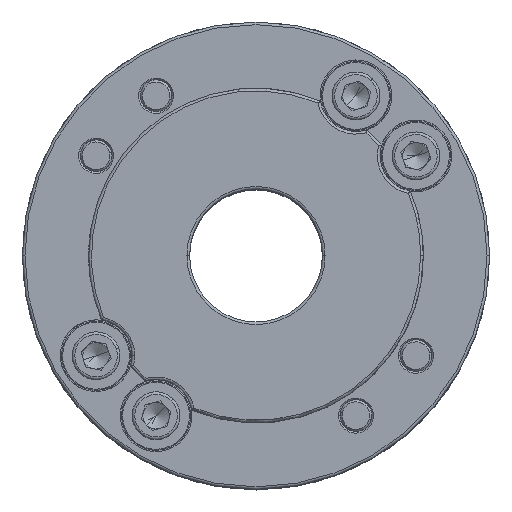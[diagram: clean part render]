
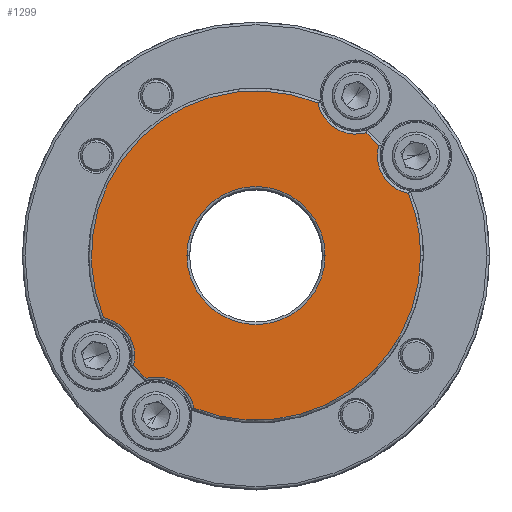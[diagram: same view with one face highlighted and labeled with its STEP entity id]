
A CAD part, top view. The second image highlights one B-rep face of the part: STEP entity #1299.
In plain terms, the highlighted planar face has unit normal (0, 0, 1).
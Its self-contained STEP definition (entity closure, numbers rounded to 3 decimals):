
#1209 = ORIENTED_EDGE ( 'NONE', *, *, #1210, .T. ) ;
#1210 = EDGE_CURVE ( 'NONE', #1522, #1380, #5039, .T. ) ;
#1219 = ORIENTED_EDGE ( 'NONE', *, *, #2748, .T. ) ;
#1220 = EDGE_CURVE ( 'NONE', #1369, #1244, #4888, .T. ) ;
#1224 = ORIENTED_EDGE ( 'NONE', *, *, #2635, .T. ) ;
#1225 = ORIENTED_EDGE ( 'NONE', *, *, #1226, .T. ) ;
#1226 = EDGE_CURVE ( 'NONE', #2339, #1268, #5087, .T. ) ;
#1227 = EDGE_CURVE ( 'NONE', #1380, #2592, #4936, .T. ) ;
#1228 = ORIENTED_EDGE ( 'NONE', *, *, #2338, .T. ) ;
#1229 = EDGE_CURVE ( 'NONE', #2518, #2517, #4931, .T. ) ;
#1230 = ORIENTED_EDGE ( 'NONE', *, *, #1521, .T. ) ;
#1235 = ORIENTED_EDGE ( 'NONE', *, *, #1236, .T. ) ;
#1236 = EDGE_CURVE ( 'NONE', #1244, #1312, #5006, .T. ) ;
#1237 = ORIENTED_EDGE ( 'NONE', *, *, #1227, .T. ) ;
#1238 = ORIENTED_EDGE ( 'NONE', *, *, #1229, .T. ) ;
#1244 = VERTEX_POINT ( 'NONE', #4950 ) ;
#1262 = EDGE_LOOP ( 'NONE', ( #1238, #1224 ) ) ;
#1268 = VERTEX_POINT ( 'NONE', #5107 ) ;
#1269 = ORIENTED_EDGE ( 'NONE', *, *, #1220, .T. ) ;
#1275 = EDGE_LOOP ( 'NONE', ( #1269, #1235, #1230, #1209, #1237, #1228, #1225, #1350, #1219, #1352 ) ) ;
#1299 = ADVANCED_FACE ( 'NONE', ( #5120, #5119 ), #5118, .T. ) ;
#1312 = VERTEX_POINT ( 'NONE', #5220 ) ;
#1350 = ORIENTED_EDGE ( 'NONE', *, *, #1351, .T. ) ;
#1351 = EDGE_CURVE ( 'NONE', #1268, #2340, #5303, .T. ) ;
#1352 = ORIENTED_EDGE ( 'NONE', *, *, #1494, .T. ) ;
#1369 = VERTEX_POINT ( 'NONE', #5193 ) ;
#1380 = VERTEX_POINT ( 'NONE', #5400 ) ;
#1494 = EDGE_CURVE ( 'NONE', #2334, #1369, #5565, .T. ) ;
#1521 = EDGE_CURVE ( 'NONE', #1312, #1522, #5705, .T. ) ;
#1522 = VERTEX_POINT ( 'NONE', #5701 ) ;
#2334 = VERTEX_POINT ( 'NONE', #7000 ) ;
#2338 = EDGE_CURVE ( 'NONE', #2592, #2339, #6970, .T. ) ;
#2339 = VERTEX_POINT ( 'NONE', #7094 ) ;
#2340 = VERTEX_POINT ( 'NONE', #7093 ) ;
#2517 = VERTEX_POINT ( 'NONE', #7169 ) ;
#2518 = VERTEX_POINT ( 'NONE', #7168 ) ;
#2592 = VERTEX_POINT ( 'NONE', #7317 ) ;
#2635 = EDGE_CURVE ( 'NONE', #2517, #2518, #7292, .T. ) ;
#2748 = EDGE_CURVE ( 'NONE', #2340, #2334, #7422, .T. ) ;
#4884 = DIRECTION ( 'NONE',  ( 1., 0., 0. ) ) ;
#4885 = DIRECTION ( 'NONE',  ( 0., 0., -1. ) ) ;
#4886 = CARTESIAN_POINT ( 'NONE',  ( 30.106, 18.812, 30. ) ) ;
#4887 = AXIS2_PLACEMENT_3D ( 'NONE', #4886, #4885, #4884 ) ;
#4888 = CIRCLE ( 'NONE', #4887, 7.25 ) ;
#4927 = DIRECTION ( 'NONE',  ( 1., 0., 0. ) ) ;
#4928 = DIRECTION ( 'NONE',  ( 0., 0., -1. ) ) ;
#4929 = CARTESIAN_POINT ( 'NONE',  ( 0., 0., 30. ) ) ;
#4930 = AXIS2_PLACEMENT_3D ( 'NONE', #4929, #4928, #4927 ) ;
#4931 = CIRCLE ( 'NONE', #4930, 13. ) ;
#4932 = DIRECTION ( 'NONE',  ( 1., 0., 0. ) ) ;
#4933 = DIRECTION ( 'NONE',  ( 0., 0., -1. ) ) ;
#4934 = CARTESIAN_POINT ( 'NONE',  ( -30.106, -18.812, 30. ) ) ;
#4935 = AXIS2_PLACEMENT_3D ( 'NONE', #4934, #4933, #4932 ) ;
#4936 = CIRCLE ( 'NONE', #4935, 7.25 ) ;
#4937 = DIRECTION ( 'NONE',  ( 1., 0., 0. ) ) ;
#4950 = CARTESIAN_POINT ( 'NONE',  ( 23.099, 20.675, 30. ) ) ;
#5002 = DIRECTION ( 'NONE',  ( 1., 0., 0. ) ) ;
#5003 = DIRECTION ( 'NONE',  ( 0., 0., 1. ) ) ;
#5004 = CARTESIAN_POINT ( 'NONE',  ( 0., 0., 30. ) ) ;
#5005 = AXIS2_PLACEMENT_3D ( 'NONE', #5004, #5003, #5002 ) ;
#5006 = CIRCLE ( 'NONE', #5005, 31. ) ;
#5035 = DIRECTION ( 'NONE',  ( 1., 0., 0. ) ) ;
#5036 = DIRECTION ( 'NONE',  ( 0., 0., 1. ) ) ;
#5037 = CARTESIAN_POINT ( 'NONE',  ( 0., 0., 30. ) ) ;
#5038 = AXIS2_PLACEMENT_3D ( 'NONE', #5037, #5036, #5035 ) ;
#5039 = CIRCLE ( 'NONE', #5038, 31. ) ;
#5080 = DIRECTION ( 'NONE',  ( 0., 0., 1. ) ) ;
#5081 = CARTESIAN_POINT ( 'NONE',  ( 0., 0., 30. ) ) ;
#5082 = AXIS2_PLACEMENT_3D ( 'NONE', #5081, #5080, #4937 ) ;
#5087 = CIRCLE ( 'NONE', #5082, 31. ) ;
#5107 = CARTESIAN_POINT ( 'NONE',  ( -20.675, -23.099, 30. ) ) ;
#5114 = DIRECTION ( 'NONE',  ( 1., 0., 0. ) ) ;
#5115 = DIRECTION ( 'NONE',  ( 0., 0., 1. ) ) ;
#5116 = CARTESIAN_POINT ( 'NONE',  ( 0., -96.941, 30. ) ) ;
#5117 = AXIS2_PLACEMENT_3D ( 'NONE', #5116, #5115, #5114 ) ;
#5118 = PLANE ( 'NONE',  #5117 ) ;
#5119 = FACE_OUTER_BOUND ( 'NONE', #1275, .T. ) ;
#5120 = FACE_BOUND ( 'NONE', #1262, .T. ) ;
#5193 = CARTESIAN_POINT ( 'NONE',  ( 28.708, 11.698, 30. ) ) ;
#5220 = CARTESIAN_POINT ( 'NONE',  ( 20.675, 23.099, 30. ) ) ;
#5299 = DIRECTION ( 'NONE',  ( 1., 0., 0. ) ) ;
#5300 = DIRECTION ( 'NONE',  ( 0., 0., -1. ) ) ;
#5301 = CARTESIAN_POINT ( 'NONE',  ( -18.812, -30.106, 30. ) ) ;
#5302 = AXIS2_PLACEMENT_3D ( 'NONE', #5301, #5300, #5299 ) ;
#5303 = CIRCLE ( 'NONE', #5302, 7.25 ) ;
#5400 = CARTESIAN_POINT ( 'NONE',  ( -28.708, -11.698, 30. ) ) ;
#5564 = AXIS2_PLACEMENT_3D ( 'NONE', #5610, #5609, #5608 ) ;
#5565 = CIRCLE ( 'NONE', #5564, 31. ) ;
#5608 = DIRECTION ( 'NONE',  ( 1., 0., 0. ) ) ;
#5609 = DIRECTION ( 'NONE',  ( 0., 0., 1. ) ) ;
#5610 = CARTESIAN_POINT ( 'NONE',  ( 0., 0., 30. ) ) ;
#5688 = CARTESIAN_POINT ( 'NONE',  ( 18.812, 30.106, 30. ) ) ;
#5701 = CARTESIAN_POINT ( 'NONE',  ( 11.698, 28.708, 30. ) ) ;
#5702 = DIRECTION ( 'NONE',  ( 1., 0., 0. ) ) ;
#5703 = DIRECTION ( 'NONE',  ( 0., 0., -1. ) ) ;
#5704 = AXIS2_PLACEMENT_3D ( 'NONE', #5688, #5703, #5702 ) ;
#5705 = CIRCLE ( 'NONE', #5704, 7.25 ) ;
#6970 = CIRCLE ( 'NONE', #7098, 7.25 ) ;
#7000 = CARTESIAN_POINT ( 'NONE',  ( 31., 0., 30. ) ) ;
#7093 = CARTESIAN_POINT ( 'NONE',  ( -11.698, -28.708, 30. ) ) ;
#7094 = CARTESIAN_POINT ( 'NONE',  ( -23.099, -20.675, 30. ) ) ;
#7095 = DIRECTION ( 'NONE',  ( 1., 0., 0. ) ) ;
#7096 = DIRECTION ( 'NONE',  ( 0., 0., -1. ) ) ;
#7097 = CARTESIAN_POINT ( 'NONE',  ( -30.106, -18.812, 30. ) ) ;
#7098 = AXIS2_PLACEMENT_3D ( 'NONE', #7097, #7096, #7095 ) ;
#7168 = CARTESIAN_POINT ( 'NONE',  ( 13., 0., 30. ) ) ;
#7169 = CARTESIAN_POINT ( 'NONE',  ( -13., 0., 30. ) ) ;
#7288 = DIRECTION ( 'NONE',  ( 1., 0., 0. ) ) ;
#7289 = DIRECTION ( 'NONE',  ( 0., 0., -1. ) ) ;
#7290 = CARTESIAN_POINT ( 'NONE',  ( 0., 0., 30. ) ) ;
#7291 = AXIS2_PLACEMENT_3D ( 'NONE', #7290, #7289, #7288 ) ;
#7292 = CIRCLE ( 'NONE', #7291, 13. ) ;
#7317 = CARTESIAN_POINT ( 'NONE',  ( -22.856, -18.812, 30. ) ) ;
#7405 = DIRECTION ( 'NONE',  ( 1., 0., 0. ) ) ;
#7406 = DIRECTION ( 'NONE',  ( 0., 0., 1. ) ) ;
#7407 = CARTESIAN_POINT ( 'NONE',  ( 0., 0., 30. ) ) ;
#7408 = AXIS2_PLACEMENT_3D ( 'NONE', #7407, #7406, #7405 ) ;
#7422 = CIRCLE ( 'NONE', #7408, 31. ) ;
